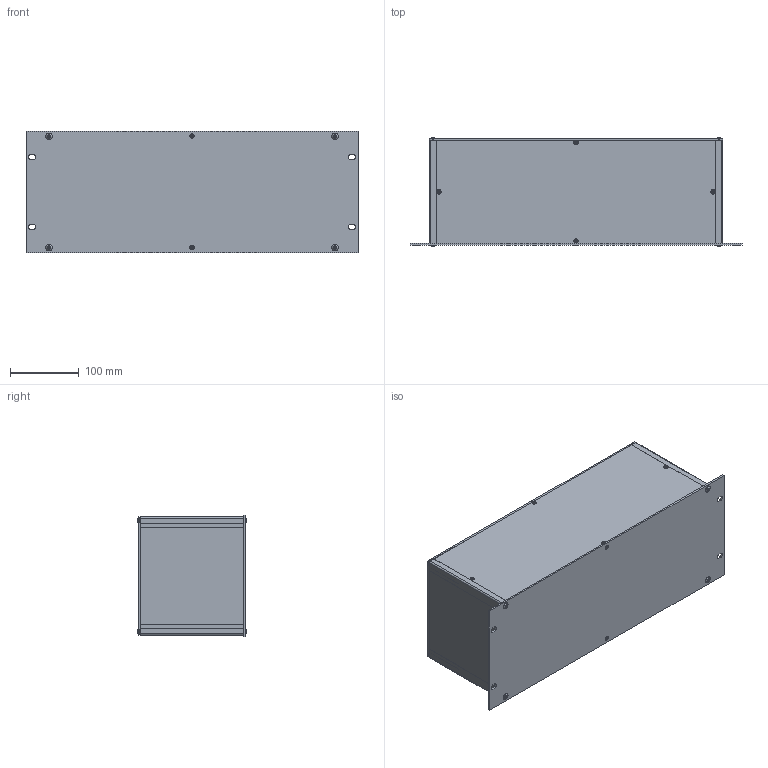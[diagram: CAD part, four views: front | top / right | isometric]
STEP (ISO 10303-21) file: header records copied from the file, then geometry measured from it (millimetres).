
FILE_DESCRIPTION(/* description */ (''),/* implementation_level */ '2;1');
FILE_NAME(/* name */ '//diskstation/Kunden/Gehäuse/Gehäuse/4HE/step/19 Zoll 3HE Rack Gehäuse Tiefe-150.step',/* time_stamp */ '2022-02-17T16:07:34+01:00',/* author */ (''),/* organization */ (''),/* preprocessor_version */ 'ST-DEVELOPER v18.1',/* originating_system */ 'Autodesk Translation Framework v10.10.0.1391',/* authorisation */ '');
FILE_SCHEMA (('AUTOMOTIVE_DESIGN { 1 0 10303 214 3 1 1 }'));
Length unit declared in the file: millimetre
Products named in the file (28): 4HE Gehäuse mit parametern; Gehäuse; Gehäuseprofil 1 unten links; Gehäuseprofil 2 oben rechts; Gehäuseprofil 1 unten rechts; Gehäuseprofil 2 oben links; Rückplatte; Deckel; Seitenteil links; Seitenteil rechts; Bodenplatte; Montageklotz Front/Deckel; Montageklotz Front/Boden; Montageklotz Rück/Deckel; Montageklotz Rück/Boden; Gewindestreifen; Frontplatte; Schrauben M5; Schraube Front; Schraube Front (1); Schraube Front (2); Schraube Front (3); Schraube Rück (1); Schraube Rück; Schraube Rück (2); Schraube Rück (3); Schrauben M3; HI_Senkschraube DIN 965 A v2 M3x5 24677.030.005(High)
Assembly tree (37 placements, depth 3):
  4HE Gehäuse mit parametern
    Gehäuse
      Gehäuseprofil 1 unten links
      Gehäuseprofil 2 oben rechts
      Gehäuseprofil 1 unten rechts
      Gehäuseprofil 2 oben links
      Rückplatte
      Deckel
      Seitenteil links
      Seitenteil rechts
      Bodenplatte
      Montageklotz Front/Deckel
      Montageklotz Front/Boden
      Montageklotz Rück/Deckel
      Montageklotz Rück/Boden
      Gewindestreifen  x2
    Frontplatte
    Schrauben M5
      Schraube Front
      Schraube Front (1)
      Schraube Front (2)
      Schraube Front (3)
      Schraube Rück (1)
      Schraube Rück
      Schraube Rück (2)
      Schraube Rück (3)
    Schrauben M3
      HI_Senkschraube DIN 965 A v2 M3x5 24677.030.005(High)  x10
Bounding box: 483 x 158.2 x 177 mm (x, y, z)
Volume: 847321.6 mm3; surface area: 732843.9 mm2
Topology: 34 solids, 34 shells, 822 faces, 1980 edges, 1226 vertices
Faces by surface type: plane 346, cylinder 296, cone 164, torus 8, bspline 8
Full cylindrical faces by diameter (mm): 2.529 x50, 3 x10, 3.2 x10, 4.234 x40, 5 x8, 5.2 x4, 5.3 x8, 5.6 x10, 9.5 x8
Entity records: 16201 total; most frequent: CARTESIAN_POINT 2982, DIRECTION 2704, ORIENTED_EDGE 2394, EDGE_CURVE 1197, AXIS2_PLACEMENT_3D 1008, VERTEX_POINT 746, LINE 688, VECTOR 688
